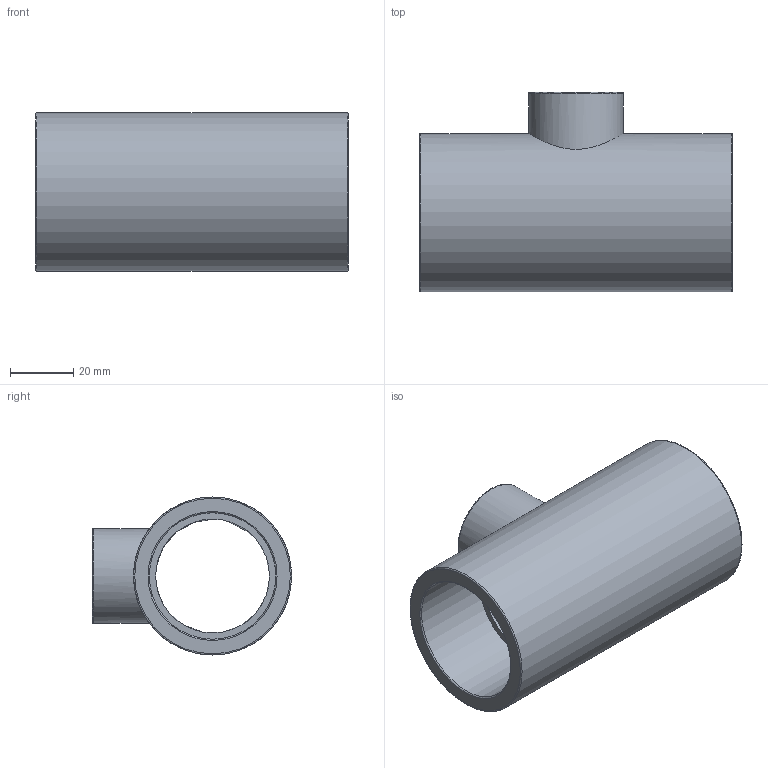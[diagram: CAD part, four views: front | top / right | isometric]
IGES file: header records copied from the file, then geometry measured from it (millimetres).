
Global section: file name: 051400040020.ipt; native system: Autodesk Inventor 2015; preprocessor: unknown; author: KIM; date: 20171207.165213; units: millimetre
Bounding box: 99 x 63 x 50 mm (x, y, z)
Volume: 85008.9 mm3; surface area: 31366.2 mm2
Topology: 1 solids, 1 shells, 19 faces, 58 edges, 44 vertices
Faces by surface type: revolution 11, plane 6, cylinder 2
Full cylindrical faces by diameter (mm): 30 x1, 50 x1
